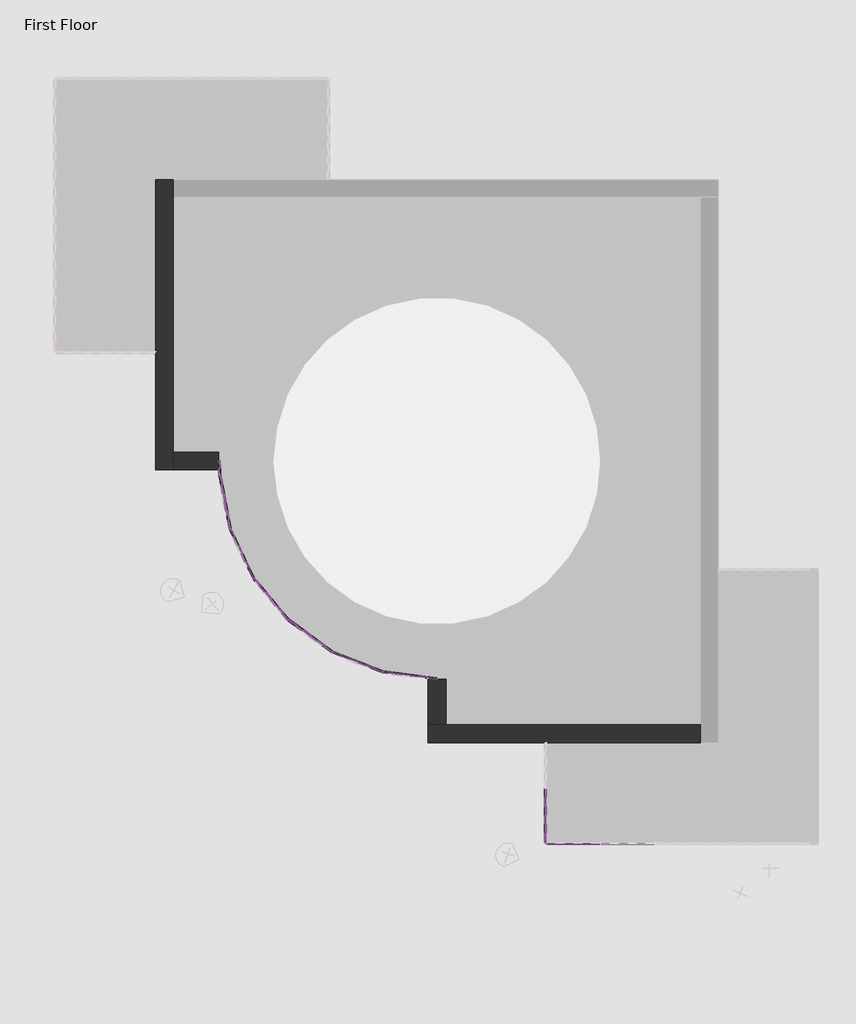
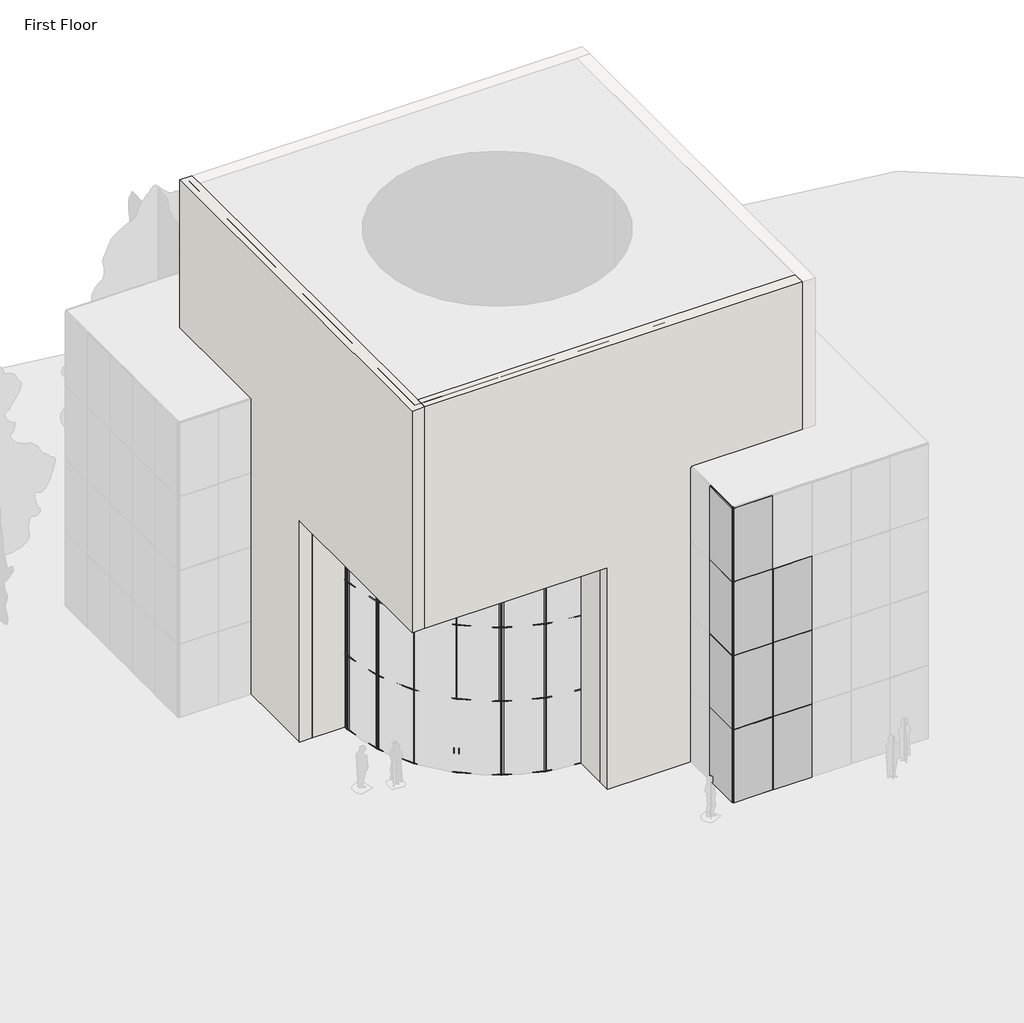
# One storey, part 1 of 5: 55 members, 30 plates, 4 walls, 2 doors.
"""IFC4 building model written with IfcOpenShell, lengths in millimetres."""

from ifc_helpers import new_model, si_unit, origin, origin_with_axes, place, context, project, spatial, polyline, outline, extrude, faceted_brep, transform, mapped, element, save
from components import curtain_wall_sgl_glass_curtain_wall_sgl_glass_fca7f741, curtain_wall_sgl_glass_curtain_wall_sgl_glass_da5bb70a, member_cbdb9076, member_74941792, member_7e523723, member_9fd3d903, member_6604d1e0, member_427ea564, member_dc7d8ed0, member_50c0a876, member_f831c101, member_4ce38149, member_fef64646, member_b90b2622, member_80103e86, member_985bfe06, member_dfe62b7a, member_7f371842, system_panel_glazed_9b7d687a, system_panel_glazed_9a901b4a, system_panel_glazed_2d5e1d3d, system_panel_glazed_37964ea6, system_panel_glazed_64ac1428, system_panel_glazed_4997d7a8, system_panel_glazed_95735f45, system_panel_glazed_2762a518, system_panel_glazed_280dc3c4, system_panel_glazed_176abec3, system_panel_glazed_46fdc408

model = new_model("IFC4")

# Units and contexts
model_context = context("Model", 3, world=origin())
ifc_project = project(units=[si_unit("LENGTHUNIT", "METRE", prefix="MILLI")], contexts=[model_context])

# Site, building, storey
site = spatial("IfcSite", under=ifc_project)
building = spatial("IfcBuilding", under=site)
storey = spatial("IfcBuildingStorey", under=building, Name="First Floor", Elevation=0.0)

# Doors
placement = place(None, origin())
curtain_wall_sgl_glass_curtain_wall_sgl_glass_shape = curtain_wall_sgl_glass_curtain_wall_sgl_glass_fca7f741(model_context)
element("IfcDoor", 1, ObjectType="Curtain Wall Sgl Glass : Curtain Wall Sgl Glass", at=placement, inside=storey, context=model_context, shape_type="MappedRepresentation", body=[
    mapped(curtain_wall_sgl_glass_curtain_wall_sgl_glass_shape, transform((-6023.0622127, -5581.3120786, 25.4), x_axis=(0.8100029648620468, -0.5864257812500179, 0.0), y_axis=(0.5864257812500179, 0.8100029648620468, 0.0), z_axis=(0.0, 0.0, 1.0))),
])
curtain_wall_sgl_glass_curtain_wall_sgl_glass_2_shape = curtain_wall_sgl_glass_curtain_wall_sgl_glass_da5bb70a(model_context)
element("IfcDoor", 2, ObjectType="Curtain Wall Sgl Glass : Curtain Wall Sgl Glass", at=placement, inside=storey, context=model_context, shape_type="MappedRepresentation", body=[
    mapped(curtain_wall_sgl_glass_curtain_wall_sgl_glass_2_shape, transform((-7118.1779734, -4557.0751782, 25.4), x_axis=(-0.6392337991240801, 0.7690124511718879, 0.0), y_axis=(-0.7690124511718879, -0.6392337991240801, 0.0), z_axis=(0.0, 0.0, 1.0))),
])

# Members
member_shape = member_cbdb9076(model_context)
element("IfcMember", 3, ObjectType="Rectangular Mullion : 1\" Square", at=placement, inside=storey, context=model_context, shape_type="MappedRepresentation", body=[
    mapped(member_shape, transform((576.8943843, -11350.8110776, 3048.0), x_axis=(0.0, -1.0, 0.0), y_axis=(-1.0, 0.0, 0.0), z_axis=(0.0, 0.0, -1.0))),
])
element("IfcMember", 4, ObjectType="Rectangular Mullion : 1\" Square", at=placement, inside=storey, context=model_context, shape_type="MappedRepresentation", body=[
    mapped(member_shape, transform((576.8943843, -11350.8110776, 6096.0), x_axis=(0.0, -1.0, 0.0), y_axis=(-1.0, 0.0, 0.0), z_axis=(0.0, 0.0, -1.0))),
])
element("IfcMember", 5, ObjectType="Rectangular Mullion : 1\" Square", at=placement, inside=storey, context=model_context, shape_type="MappedRepresentation", body=[
    mapped(member_shape, transform((-8553.4843812, -1093.2753523, 3048.0), x_axis=(-0.06681254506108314, 0.9977655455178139, 0.0), y_axis=(0.9977655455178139, 0.06681254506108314, 0.0), z_axis=(0.0, 0.0, -1.0))),
])
element("IfcMember", 6, ObjectType="Rectangular Mullion : 1\" Square", at=placement, inside=storey, context=model_context, shape_type="MappedRepresentation", body=[
    mapped(member_shape, transform((-8262.3863448, -2589.2158368, 3048.0), x_axis=(-0.3122096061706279, 0.9500132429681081, 0.0), y_axis=(0.9500132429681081, 0.3122096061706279, 0.0), z_axis=(0.0, 0.0, -1.0))),
])
element("IfcMember", 7, ObjectType="Rectangular Mullion : 1\" Square", at=placement, inside=storey, context=model_context, shape_type="MappedRepresentation", body=[
    mapped(member_shape, transform((-7609.3332629, -3966.2044614, 3048.0), x_axis=(-0.5380935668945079, 0.8428851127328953, 0.0), y_axis=(0.8428851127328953, 0.5380935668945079, 0.0), z_axis=(0.0, 0.0, -1.0))),
])
element("IfcMember", 8, ObjectType="Rectangular Mullion : 1\" Square", at=placement, inside=storey, context=model_context, shape_type="MappedRepresentation", body=[
    mapped(member_shape, transform((-5400.6964346, -6031.8923276, 3048.0), x_axis=(-0.876953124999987, 0.4805759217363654, 0.0), y_axis=(0.4805759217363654, 0.876953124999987, 0.0), z_axis=(0.0, 0.0, -1.0))),
])
element("IfcMember", 9, ObjectType="Rectangular Mullion : 1\" Square", at=placement, inside=storey, context=model_context, shape_type="MappedRepresentation", body=[
    mapped(member_shape, transform((-3983.15249, -6591.4860776, 3048.0), x_axis=(-0.9687499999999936, 0.2480391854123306, 0.0), y_axis=(0.2480391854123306, 0.9687499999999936, 0.0), z_axis=(0.0, 0.0, -1.0))),
])
element("IfcMember", 10, ObjectType="Rectangular Mullion : 1\" Square", at=placement, inside=storey, context=model_context, shape_type="MappedRepresentation", body=[
    mapped(member_shape, transform((576.8943843, -11350.8110776, 9144.0), x_axis=(0.0, -1.0, 0.0), y_axis=(-1.0, 0.0, 0.0), z_axis=(0.0, 0.0, -1.0))),
])
element("IfcMember", 11, ObjectType="Rectangular Mullion : 1\" Square", at=placement, inside=storey, context=model_context, shape_type="MappedRepresentation", body=[
    mapped(member_shape, transform((576.8943843, -11350.8110776, 0.0), x_axis=(0.0, -1.0, 0.0), y_axis=(-1.0, 0.0, 0.0), z_axis=(0.0, 0.0, -1.0))),
])
element("IfcMember", 12, ObjectType="Rectangular Mullion : 1\" Square", at=placement, inside=storey, context=model_context, shape_type="MappedRepresentation", body=[
    mapped(member_shape, transform((-8553.4843812, -1093.2753523, 0.0), x_axis=(-0.06681254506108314, 0.9977655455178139, 0.0), y_axis=(0.9977655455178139, 0.06681254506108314, 0.0), z_axis=(0.0, 0.0, -1.0))),
])
element("IfcMember", 13, ObjectType="Rectangular Mullion : 1\" Square", at=placement, inside=storey, context=model_context, shape_type="MappedRepresentation", body=[
    mapped(member_shape, transform((-8262.3863448, -2589.2158368, 0.0), x_axis=(-0.3122096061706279, 0.9500132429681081, 0.0), y_axis=(0.9500132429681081, 0.3122096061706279, 0.0), z_axis=(0.0, 0.0, -1.0))),
])
element("IfcMember", 14, ObjectType="Rectangular Mullion : 1\" Square", at=placement, inside=storey, context=model_context, shape_type="MappedRepresentation", body=[
    mapped(member_shape, transform((-7609.3332629, -3966.2044614, 0.0), x_axis=(-0.5380935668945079, 0.8428851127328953, 0.0), y_axis=(0.8428851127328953, 0.5380935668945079, 0.0), z_axis=(0.0, 0.0, -1.0))),
])
element("IfcMember", 15, ObjectType="Rectangular Mullion : 1\" Square", at=placement, inside=storey, context=model_context, shape_type="MappedRepresentation", body=[
    mapped(member_shape, transform((-5400.6964346, -6031.8923276, 0.0), x_axis=(-0.876953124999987, 0.4805759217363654, 0.0), y_axis=(0.4805759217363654, 0.876953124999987, 0.0), z_axis=(0.0, 0.0, -1.0))),
])
element("IfcMember", 16, ObjectType="Rectangular Mullion : 1\" Square", at=placement, inside=storey, context=model_context, shape_type="MappedRepresentation", body=[
    mapped(member_shape, transform((-3983.15249, -6591.4860776, 0.0), x_axis=(-0.9687499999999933, 0.24803918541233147, 0.0), y_axis=(0.24803918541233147, 0.9687499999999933, 0.0), z_axis=(0.0, 0.0, -1.0))),
])
member_2_shape = member_74941792(model_context)
element("IfcMember", 17, ObjectType="Rectangular Mullion : 1\" Square", at=placement, inside=storey, context=model_context, shape_type="MappedRepresentation", body=[
    mapped(member_2_shape, transform((602.2943843, -11353.9860776, 0.0), x_axis=(0.0, 0.0, -1.0), y_axis=(0.0, -1.0, 0.0), z_axis=(-1.0, 0.0, 0.0))),
])
member_3_shape = member_7e523723(model_context)
element("IfcMember", 18, ObjectType="Rectangular Mullion : 1\" Square", at=placement, inside=storey, context=model_context, shape_type="MappedRepresentation", body=[
    mapped(member_3_shape, transform((576.8943843, -11353.9860776, 12192.0), x_axis=(-1.0, 0.0, 0.0), y_axis=(0.0, -1.0, 0.0), z_axis=(0.0, 0.0, 1.0))),
])
element("IfcMember", 19, ObjectType="Rectangular Mullion : 1\" Square", at=placement, inside=storey, context=model_context, shape_type="MappedRepresentation", body=[
    mapped(member_3_shape, transform((576.8943843, -11353.9860776, 3048.0), x_axis=(-1.0, 0.0, 0.0), y_axis=(0.0, -1.0, 0.0), z_axis=(0.0, 0.0, 1.0))),
])
element("IfcMember", 20, ObjectType="Rectangular Mullion : 1\" Square", at=placement, inside=storey, context=model_context, shape_type="MappedRepresentation", body=[
    mapped(member_3_shape, transform((576.8943843, -11353.9860776, 6096.0), x_axis=(-1.0, 0.0, 0.0), y_axis=(0.0, -1.0, 0.0), z_axis=(0.0, 0.0, 1.0))),
])
element("IfcMember", 21, ObjectType="Rectangular Mullion : 1\" Square", at=placement, inside=storey, context=model_context, shape_type="MappedRepresentation", body=[
    mapped(member_3_shape, transform((576.8943843, -11353.9860776, 9144.0), x_axis=(-1.0, 0.0, 0.0), y_axis=(0.0, -1.0, 0.0), z_axis=(0.0, 0.0, 1.0))),
])
member_4_shape = member_9fd3d903(model_context)
element("IfcMember", 22, ObjectType="Rectangular Mullion : 1\" Square", at=placement, inside=storey, context=model_context, shape_type="MappedRepresentation", body=[
    mapped(member_4_shape, transform((576.8943843, -11338.1110776, 3048.0), x_axis=(0.0, 0.0, 1.0), y_axis=(-1.0, 0.0, 0.0), z_axis=(0.0, -1.0, 0.0))),
])
element("IfcMember", 23, ObjectType="Rectangular Mullion : 1\" Square", at=placement, inside=storey, context=model_context, shape_type="MappedRepresentation", body=[
    mapped(member_4_shape, transform((576.8943843, -11338.1110776, 6096.0), x_axis=(0.0, 0.0, 1.0), y_axis=(-1.0, 0.0, 0.0), z_axis=(0.0, -1.0, 0.0))),
])
element("IfcMember", 24, ObjectType="Rectangular Mullion : 1\" Square", at=placement, inside=storey, context=model_context, shape_type="MappedRepresentation", body=[
    mapped(member_4_shape, transform((576.8943843, -11338.1110776, 9144.0), x_axis=(0.0, 0.0, 1.0), y_axis=(-1.0, 0.0, 0.0), z_axis=(0.0, -1.0, 0.0))),
])
member_5_shape = member_6604d1e0(model_context)
element("IfcMember", 25, ObjectType="Rectangular Mullion : 1\" Square", at=placement, inside=storey, context=model_context, shape_type="MappedRepresentation", body=[
    mapped(member_5_shape, transform((576.8943843, -11338.1110776, 12192.0), x_axis=(0.0, 0.0, 1.0), y_axis=(-1.0, 0.0, 0.0), z_axis=(0.0, -1.0, 0.0))),
])
element("IfcMember", 26, ObjectType="Rectangular Mullion : 1\" Square", at=placement, inside=storey, context=model_context, shape_type="MappedRepresentation", body=[
    mapped(member_3_shape, transform((576.8943843, -11353.9860776, 3048.0), x_axis=(0.0, -1.0, 0.0), y_axis=(-1.0, 0.0, 0.0), z_axis=(0.0, 0.0, -1.0))),
])
element("IfcMember", 27, ObjectType="Rectangular Mullion : 1\" Square", at=placement, inside=storey, context=model_context, shape_type="MappedRepresentation", body=[
    mapped(member_3_shape, transform((576.8943843, -11353.9860776, 6096.0), x_axis=(0.0, -1.0, 0.0), y_axis=(-1.0, 0.0, 0.0), z_axis=(0.0, 0.0, -1.0))),
])
element("IfcMember", 28, ObjectType="Rectangular Mullion : 1\" Square", at=placement, inside=storey, context=model_context, shape_type="MappedRepresentation", body=[
    mapped(member_3_shape, transform((576.8943843, -11353.9860776, 9144.0), x_axis=(0.0, -1.0, 0.0), y_axis=(-1.0, 0.0, 0.0), z_axis=(0.0, 0.0, -1.0))),
])
element("IfcMember", 29, ObjectType="Rectangular Mullion : 1\" Square", at=placement, inside=storey, context=model_context, shape_type="MappedRepresentation", body=[
    mapped(member_3_shape, transform((576.8943843, -11353.9860776, 0.0), x_axis=(0.0, -1.0, 0.0), y_axis=(-1.0, 0.0, 0.0), z_axis=(0.0, 0.0, -1.0))),
])
member_6_shape = member_427ea564(model_context)
element("IfcMember", 30, ObjectType="Rectangular Mullion : 1\" Square", at=placement, inside=storey, context=model_context, shape_type="MappedRepresentation", body=[
    mapped(member_6_shape, transform((-7614.7753719, -3954.7295562, 0.0), x_axis=(0.0, 0.0, -1.0), y_axis=(0.903535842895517, 0.42851252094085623, 0.0), z_axis=(0.42851252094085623, -0.903535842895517, 0.0))),
])
element("IfcMember", 31, ObjectType="Rectangular Mullion : 1\" Square", at=placement, inside=storey, context=model_context, shape_type="MappedRepresentation", body=[
    mapped(member_6_shape, transform((-3994.9653562, -6586.8227963, 0.0), x_axis=(0.0, 0.0, -1.0), y_axis=(0.36718750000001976, 0.9301469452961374, 0.0), z_axis=(0.9301469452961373, -0.3671875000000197, 0.0))),
])
element("IfcMember", 32, ObjectType="Rectangular Mullion : 1\" Square", at=placement, inside=storey, context=model_context, shape_type="MappedRepresentation", body=[
    mapped(member_6_shape, transform((-8264.8121618, -2576.7496661, 0.0), x_axis=(0.0, 0.0, -1.0), y_axis=(0.9815882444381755, 0.1910092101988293, 0.0), z_axis=(0.1910092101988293, -0.9815882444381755, 0.0))),
])
member_7_shape = member_dc7d8ed0(model_context)
element("IfcMember", 33, ObjectType="Rectangular Mullion : 1\" Square", at=placement, inside=storey, context=model_context, shape_type="MappedRepresentation", body=[
    mapped(member_7_shape, transform((-6635.1409531, -5138.1794369, 0.0), x_axis=(0.0, 0.0, -1.0), y_axis=(0.7690124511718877, 0.6392337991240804, 0.0), z_axis=(0.6392337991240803, -0.7690124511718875, 0.0))),
])
member_8_shape = member_50c0a876(model_context)
element("IfcMember", 34, ObjectType="Rectangular Mullion : 1\" Square", at=placement, inside=storey, context=model_context, shape_type="MappedRepresentation", body=[
    mapped(member_8_shape, transform((-5410.9834723, -6024.4447202, 0.0), x_axis=(0.0, 0.0, -1.0), y_axis=(0.5864257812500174, 0.8100029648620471, 0.0), z_axis=(0.8100029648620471, -0.5864257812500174, 0.0))),
])
member_9_shape = member_f831c101(model_context)
element("IfcMember", 35, ObjectType="Rectangular Mullion : 1\" Square", at=placement, inside=storey, context=model_context, shape_type="MappedRepresentation", body=[
    mapped(member_9_shape, transform((-2471.1056157, -6781.9860776, 0.0), x_axis=(0.0, 0.0, -1.0), y_axis=(0.12500000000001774, 0.9921567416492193, 0.0), z_axis=(0.9921567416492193, -0.12500000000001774, 0.0))),
])
member_10_shape = member_4ce38149(model_context)
element("IfcMember", 36, ObjectType="Rectangular Mullion : 1\" Square", at=placement, inside=storey, context=model_context, shape_type="MappedRepresentation", body=[
    mapped(member_10_shape, transform((-8553.908878, -1080.5824486, 0.0), x_axis=(0.0, 0.0, -1.0), y_axis=(0.9994412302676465, 0.03342494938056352, 0.0), z_axis=(0.033424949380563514, -0.9994412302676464, 0.0))),
])
member_11_shape = member_fef64646(model_context)
element("IfcMember", 37, ObjectType="Rectangular Mullion : 1\" Square", at=placement, inside=storey, context=model_context, shape_type="MappedRepresentation", body=[
    mapped(member_11_shape, transform((-3970.5520994, -6593.0735776, 3048.0), x_axis=(0.0, 0.0, 1.0), y_axis=(0.12500000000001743, 0.9921567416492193, 0.0), z_axis=(-0.9921567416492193, 0.12500000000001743, 0.0))),
])
element("IfcMember", 38, ObjectType="Rectangular Mullion : 1\" Square", at=placement, inside=storey, context=model_context, shape_type="MappedRepresentation", body=[
    mapped(member_11_shape, transform((-3970.5520994, -6593.0735776, 6096.0), x_axis=(0.0, 0.0, 1.0), y_axis=(0.12500000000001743, 0.9921567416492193, 0.0), z_axis=(-0.9921567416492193, 0.12500000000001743, 0.0))),
])
member_12_shape = member_b90b2622(model_context)
element("IfcMember", 39, ObjectType="Rectangular Mullion : 1\" Square", at=placement, inside=storey, context=model_context, shape_type="MappedRepresentation", body=[
    mapped(member_12_shape, transform((-5388.8835684, -6036.5556088, 3048.0), x_axis=(0.0, 0.0, 1.0), y_axis=(0.36718750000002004, 0.9301469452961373, 0.0), z_axis=(-0.9301469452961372, 0.36718750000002, 0.0))),
])
element("IfcMember", 40, ObjectType="Rectangular Mullion : 1\" Square", at=placement, inside=storey, context=model_context, shape_type="MappedRepresentation", body=[
    mapped(member_12_shape, transform((-8256.9442358, -2600.690742, 3048.0), x_axis=(0.0, 0.0, 1.0), y_axis=(0.9035358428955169, 0.42851252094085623, 0.0), z_axis=(-0.42851252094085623, 0.9035358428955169, 0.0))),
])
element("IfcMember", 41, ObjectType="Rectangular Mullion : 1\" Square", at=placement, inside=storey, context=model_context, shape_type="MappedRepresentation", body=[
    mapped(member_12_shape, transform((-8551.0585642, -1105.741523, 3048.0), x_axis=(0.0, 0.0, 1.0), y_axis=(0.9815882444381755, 0.1910092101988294, 0.0), z_axis=(-0.19100921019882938, 0.9815882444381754, 0.0))),
])
element("IfcMember", 42, ObjectType="Rectangular Mullion : 1\" Square", at=placement, inside=storey, context=model_context, shape_type="MappedRepresentation", body=[
    mapped(member_12_shape, transform((-8256.9442358, -2600.690742, 6096.0), x_axis=(0.0, 0.0, 1.0), y_axis=(0.9035358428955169, 0.42851252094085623, 0.0), z_axis=(-0.42851252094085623, 0.9035358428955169, 0.0))),
])
element("IfcMember", 43, ObjectType="Rectangular Mullion : 1\" Square", at=placement, inside=storey, context=model_context, shape_type="MappedRepresentation", body=[
    mapped(member_12_shape, transform((-8551.0585642, -1105.741523, 6096.0), x_axis=(0.0, 0.0, 1.0), y_axis=(0.9815882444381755, 0.19100921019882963, 0.0), z_axis=(-0.1910092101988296, 0.9815882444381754, 0.0))),
])
element("IfcMember", 44, ObjectType="Rectangular Mullion : 1\" Square", at=placement, inside=storey, context=model_context, shape_type="MappedRepresentation", body=[
    mapped(member_12_shape, transform((-5388.8835684, -6036.5556088, 6096.0), x_axis=(0.0, 0.0, 1.0), y_axis=(0.36718750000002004, 0.9301469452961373, 0.0), z_axis=(-0.9301469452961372, 0.36718750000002, 0.0))),
])
member_13_shape = member_80103e86(model_context)
element("IfcMember", 45, ObjectType="Rectangular Mullion : 1\" Square", at=placement, inside=storey, context=model_context, shape_type="MappedRepresentation", body=[
    mapped(member_13_shape, transform((-8567.1056157, -685.9860776, 3048.0), x_axis=(0.0, 0.0, 1.0), y_axis=(0.9994412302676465, 0.03342494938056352, 0.0), z_axis=(-0.033424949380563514, 0.9994412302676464, 0.0))),
])
element("IfcMember", 46, ObjectType="Rectangular Mullion : 1\" Square", at=placement, inside=storey, context=model_context, shape_type="MappedRepresentation", body=[
    mapped(member_13_shape, transform((-8567.1056157, -685.9860776, 6096.0), x_axis=(0.0, 0.0, 1.0), y_axis=(0.9994412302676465, 0.0334249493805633, 0.0), z_axis=(-0.03342494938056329, 0.9994412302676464, 0.0))),
])
element("IfcMember", 47, ObjectType="Rectangular Mullion : 1\" Square", at=placement, inside=storey, context=model_context, shape_type="MappedRepresentation", body=[
    mapped(member_shape, transform((-8553.4843812, -1093.2753523, 6096.0), x_axis=(-0.0668125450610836, 0.9977655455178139, 0.0), y_axis=(0.9977655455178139, 0.0668125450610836, 0.0), z_axis=(0.0, 0.0, -1.0))),
])
element("IfcMember", 48, ObjectType="Rectangular Mullion : 1\" Square", at=placement, inside=storey, context=model_context, shape_type="MappedRepresentation", body=[
    mapped(member_shape, transform((-8262.3863448, -2589.2158368, 6096.0), x_axis=(-0.3122096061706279, 0.9500132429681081, 0.0), y_axis=(0.9500132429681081, 0.3122096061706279, 0.0), z_axis=(0.0, 0.0, -1.0))),
])
element("IfcMember", 49, ObjectType="Rectangular Mullion : 1\" Square", at=placement, inside=storey, context=model_context, shape_type="MappedRepresentation", body=[
    mapped(member_shape, transform((-7609.3332629, -3966.2044614, 6096.0), x_axis=(-0.5380935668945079, 0.8428851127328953, 0.0), y_axis=(0.8428851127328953, 0.5380935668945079, 0.0), z_axis=(0.0, 0.0, -1.0))),
])
element("IfcMember", 50, ObjectType="Rectangular Mullion : 1\" Square", at=placement, inside=storey, context=model_context, shape_type="MappedRepresentation", body=[
    mapped(member_shape, transform((-5400.6964346, -6031.8923276, 6096.0), x_axis=(-0.8769531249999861, 0.48057592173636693, 0.0), y_axis=(0.48057592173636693, 0.8769531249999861, 0.0), z_axis=(0.0, 0.0, -1.0))),
])
element("IfcMember", 51, ObjectType="Rectangular Mullion : 1\" Square", at=placement, inside=storey, context=model_context, shape_type="MappedRepresentation", body=[
    mapped(member_shape, transform((-3983.15249, -6591.4860776, 6096.0), x_axis=(-0.9687499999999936, 0.2480391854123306, 0.0), y_axis=(0.2480391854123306, 0.9687499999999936, 0.0), z_axis=(0.0, 0.0, -1.0))),
])
element("IfcMember", 52, ObjectType="Rectangular Mullion : 1\" Square", at=placement, inside=storey, context=model_context, shape_type="MappedRepresentation", body=[
    mapped(member_shape, transform((-6635.1409531, -5138.1794369, 6096.0), x_axis=(-0.7303466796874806, 0.6830766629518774, 0.0), y_axis=(0.6830766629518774, 0.7303466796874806, 0.0), z_axis=(0.0, 0.0, -1.0))),
])
element("IfcMember", 53, ObjectType="Rectangular Mullion : 1\" Square", at=placement, inside=storey, context=model_context, shape_type="MappedRepresentation", body=[
    mapped(member_12_shape, transform((-6624.8539154, -5145.6270444, 6096.0), x_axis=(0.0, 0.0, 1.0), y_axis=(0.5864257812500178, 0.8100029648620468, 0.0), z_axis=(-0.8100029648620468, 0.5864257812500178, 0.0))),
])
element("IfcMember", 54, ObjectType="Rectangular Mullion : 1\" Square", at=placement, inside=storey, context=model_context, shape_type="MappedRepresentation", body=[
    mapped(member_12_shape, transform((-7601.2149937, -3975.9709195, 6096.0), x_axis=(0.0, 0.0, 1.0), y_axis=(0.7690124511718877, 0.6392337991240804, 0.0), z_axis=(-0.6392337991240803, 0.7690124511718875, 0.0))),
])
member_14_shape = member_985bfe06(model_context)
element("IfcMember", 55, ObjectType="Rectangular Mullion : 1\" Square", at=placement, inside=storey, context=model_context, shape_type="MappedRepresentation", body=[
    mapped(member_14_shape, transform((-6635.1409531, -5138.1794369, 3035.3), x_axis=(-0.7303466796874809, 0.6830766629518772, 0.0), y_axis=(0.6830766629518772, 0.7303466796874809, 0.0), z_axis=(0.0, 0.0, -1.0))),
])
member_15_shape = member_dfe62b7a(model_context)
element("IfcMember", 56, ObjectType="Rectangular Mullion : 1\" Square", at=placement, inside=storey, context=model_context, shape_type="MappedRepresentation", body=[
    mapped(member_15_shape, transform((-6624.8539154, -5145.6270444, 3048.0), x_axis=(0.0, 0.0, 1.0), y_axis=(0.586425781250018, 0.8100029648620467, 0.0), z_axis=(-0.8100029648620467, 0.586425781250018, 0.0))),
])
member_16_shape = member_7f371842(model_context)
element("IfcMember", 57, ObjectType="Rectangular Mullion : 1\" Square", at=placement, inside=storey, context=model_context, shape_type="MappedRepresentation", body=[
    mapped(member_16_shape, transform((-7601.2149937, -3975.9709195, 3048.0), x_axis=(0.0, 0.0, 1.0), y_axis=(0.7690124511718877, 0.6392337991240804, 0.0), z_axis=(-0.6392337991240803, 0.7690124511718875, 0.0))),
])

# Plates
system_panel_glazed_shape = system_panel_glazed_9b7d687a(model_context)
element("IfcPlate", 58, ObjectType="System Panel : Glazed", at=placement, inside=storey, context=model_context, shape_type="MappedRepresentation", body=[
    mapped(system_panel_glazed_shape, transform((1345.2443843, -11353.9860776, 25.4), x_axis=(1.0, 0.0, 0.0), y_axis=(0.0, 1.0, 0.0), z_axis=(0.0, 0.0, 1.0))),
])
element("IfcPlate", 59, ObjectType="System Panel : Glazed", at=placement, inside=storey, context=model_context, shape_type="MappedRepresentation", body=[
    mapped(system_panel_glazed_shape, transform((1345.2443843, -11353.9860776, 9156.7), x_axis=(1.0, 0.0, 0.0), y_axis=(0.0, 1.0, 0.0), z_axis=(0.0, 0.0, 1.0))),
])
system_panel_glazed_2_shape = system_panel_glazed_9a901b4a(model_context)
element("IfcPlate", 60, ObjectType="System Panel : Glazed", at=placement, inside=storey, context=model_context, shape_type="MappedRepresentation", body=[
    mapped(system_panel_glazed_2_shape, transform((1345.2443843, -11353.9860776, 3060.7), x_axis=(1.0, 0.0, 0.0), y_axis=(0.0, 1.0, 0.0), z_axis=(0.0, 0.0, 1.0))),
])
element("IfcPlate", 61, ObjectType="System Panel : Glazed", at=placement, inside=storey, context=model_context, shape_type="MappedRepresentation", body=[
    mapped(system_panel_glazed_2_shape, transform((1345.2443843, -11353.9860776, 6108.7), x_axis=(1.0, 0.0, 0.0), y_axis=(0.0, 1.0, 0.0), z_axis=(0.0, 0.0, 1.0))),
])
system_panel_glazed_3_shape = system_panel_glazed_2d5e1d3d(model_context)
element("IfcPlate", 62, ObjectType="System Panel : Glazed", at=placement, inside=storey, context=model_context, shape_type="MappedRepresentation", body=[
    mapped(system_panel_glazed_3_shape, transform((2862.8943843, -11353.9860776, 25.4), x_axis=(1.0, 0.0, 0.0), y_axis=(0.0, 1.0, 0.0), z_axis=(0.0, 0.0, 1.0))),
])
element("IfcPlate", 63, ObjectType="System Panel : Glazed", at=placement, inside=storey, context=model_context, shape_type="MappedRepresentation", body=[
    mapped(system_panel_glazed_3_shape, transform((576.8943843, -10588.8110776, 25.4), x_axis=(0.0, -1.0, 0.0), y_axis=(1.0, 0.0, 0.0), z_axis=(0.0, 0.0, 1.0))),
])
element("IfcPlate", 64, ObjectType="System Panel : Glazed", at=placement, inside=storey, context=model_context, shape_type="MappedRepresentation", body=[
    mapped(system_panel_glazed_3_shape, transform((576.8943843, -10588.8110776, 9156.7), x_axis=(0.0, -1.0, 0.0), y_axis=(1.0, 0.0, 0.0), z_axis=(0.0, 0.0, 1.0))),
])
element("IfcPlate", 65, ObjectType="System Panel : Glazed", at=placement, inside=storey, context=model_context, shape_type="MappedRepresentation", body=[
    mapped(system_panel_glazed_3_shape, transform((-4691.9244623, -6311.6892026, 25.4), x_axis=(-0.9301469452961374, 0.36718750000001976, 0.0), y_axis=(-0.36718750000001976, -0.9301469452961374, 0.0), z_axis=(0.0, 0.0, 1.0))),
])
element("IfcPlate", 66, ObjectType="System Panel : Glazed", at=placement, inside=storey, context=model_context, shape_type="MappedRepresentation", body=[
    mapped(system_panel_glazed_3_shape, transform((-7935.8598039, -3277.7101491, 25.4), x_axis=(-0.42851252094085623, 0.903535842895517, 0.0), y_axis=(-0.903535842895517, -0.42851252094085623, 0.0), z_axis=(0.0, 0.0, 1.0))),
])
element("IfcPlate", 67, ObjectType="System Panel : Glazed", at=placement, inside=storey, context=model_context, shape_type="MappedRepresentation", body=[
    mapped(system_panel_glazed_3_shape, transform((-8407.935363, -1841.2455945, 25.4), x_axis=(-0.19100921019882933, 0.9815882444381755, 0.0), y_axis=(-0.9815882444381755, -0.19100921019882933, 0.0), z_axis=(0.0, 0.0, 1.0))),
])
system_panel_glazed_4_shape = system_panel_glazed_37964ea6(model_context)
element("IfcPlate", 68, ObjectType="System Panel : Glazed", at=placement, inside=storey, context=model_context, shape_type="MappedRepresentation", body=[
    mapped(system_panel_glazed_4_shape, transform((2862.8943843, -11353.9860776, 3060.7), x_axis=(1.0, 0.0, 0.0), y_axis=(0.0, 1.0, 0.0), z_axis=(0.0, 0.0, 1.0))),
])
element("IfcPlate", 69, ObjectType="System Panel : Glazed", at=placement, inside=storey, context=model_context, shape_type="MappedRepresentation", body=[
    mapped(system_panel_glazed_4_shape, transform((2862.8943843, -11353.9860776, 6108.7), x_axis=(1.0, 0.0, 0.0), y_axis=(0.0, 1.0, 0.0), z_axis=(0.0, 0.0, 1.0))),
])
element("IfcPlate", 70, ObjectType="System Panel : Glazed", at=placement, inside=storey, context=model_context, shape_type="MappedRepresentation", body=[
    mapped(system_panel_glazed_4_shape, transform((576.8943843, -10588.8110776, 3060.7), x_axis=(0.0, -1.0, 0.0), y_axis=(1.0, 0.0, 0.0), z_axis=(0.0, 0.0, 1.0))),
])
element("IfcPlate", 71, ObjectType="System Panel : Glazed", at=placement, inside=storey, context=model_context, shape_type="MappedRepresentation", body=[
    mapped(system_panel_glazed_4_shape, transform((576.8943843, -10588.8110776, 6108.7), x_axis=(0.0, -1.0, 0.0), y_axis=(1.0, 0.0, 0.0), z_axis=(0.0, 0.0, 1.0))),
])
element("IfcPlate", 72, ObjectType="System Panel : Glazed", at=placement, inside=storey, context=model_context, shape_type="MappedRepresentation", body=[
    mapped(system_panel_glazed_4_shape, transform((-4691.9244623, -6311.6892026, 3060.7), x_axis=(-0.9301469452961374, 0.36718750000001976, 0.0), y_axis=(-0.36718750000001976, -0.9301469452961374, 0.0), z_axis=(0.0, 0.0, 1.0))),
])
element("IfcPlate", 73, ObjectType="System Panel : Glazed", at=placement, inside=storey, context=model_context, shape_type="MappedRepresentation", body=[
    mapped(system_panel_glazed_4_shape, transform((-6017.9186938, -5585.0358823, 3060.7), x_axis=(-0.8100029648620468, 0.5864257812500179, 0.0), y_axis=(-0.5864257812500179, -0.8100029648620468, 0.0), z_axis=(0.0, 0.0, 1.0))),
])
element("IfcPlate", 74, ObjectType="System Panel : Glazed", at=placement, inside=storey, context=model_context, shape_type="MappedRepresentation", body=[
    mapped(system_panel_glazed_4_shape, transform((-7122.237108, -4552.1919492, 3060.7), x_axis=(-0.6392337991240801, 0.7690124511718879, 0.0), y_axis=(-0.7690124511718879, -0.6392337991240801, 0.0), z_axis=(0.0, 0.0, 1.0))),
])
element("IfcPlate", 75, ObjectType="System Panel : Glazed", at=placement, inside=storey, context=model_context, shape_type="MappedRepresentation", body=[
    mapped(system_panel_glazed_4_shape, transform((-7935.8598039, -3277.7101491, 3060.7), x_axis=(-0.42851252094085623, 0.903535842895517, 0.0), y_axis=(-0.903535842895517, -0.42851252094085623, 0.0), z_axis=(0.0, 0.0, 1.0))),
])
element("IfcPlate", 76, ObjectType="System Panel : Glazed", at=placement, inside=storey, context=model_context, shape_type="MappedRepresentation", body=[
    mapped(system_panel_glazed_4_shape, transform((-8407.935363, -1841.2455945, 3060.7), x_axis=(-0.19100921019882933, 0.9815882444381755, 0.0), y_axis=(-0.9815882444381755, -0.19100921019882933, 0.0), z_axis=(0.0, 0.0, 1.0))),
])
system_panel_glazed_5_shape = system_panel_glazed_64ac1428(model_context)
element("IfcPlate", 77, ObjectType="System Panel : Glazed", at=placement, inside=storey, context=model_context, shape_type="MappedRepresentation", body=[
    mapped(system_panel_glazed_5_shape, transform((-3220.8288575, -6687.5298276, 25.4), x_axis=(-0.9921567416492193, 0.12500000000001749, 0.0), y_axis=(-0.12500000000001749, -0.9921567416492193, 0.0), z_axis=(0.0, 0.0, 1.0))),
])
system_panel_glazed_6_shape = system_panel_glazed_4997d7a8(model_context)
element("IfcPlate", 78, ObjectType="System Panel : Glazed", at=placement, inside=storey, context=model_context, shape_type="MappedRepresentation", body=[
    mapped(system_panel_glazed_6_shape, transform((-8560.5072469, -883.2842631, 25.4), x_axis=(-0.03342494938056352, 0.9994412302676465, 0.0), y_axis=(-0.9994412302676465, -0.03342494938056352, 0.0), z_axis=(0.0, 0.0, 1.0))),
])
system_panel_glazed_7_shape = system_panel_glazed_95735f45(model_context)
element("IfcPlate", 79, ObjectType="System Panel : Glazed", at=placement, inside=storey, context=model_context, shape_type="MappedRepresentation", body=[
    mapped(system_panel_glazed_7_shape, transform((-3220.8288575, -6687.5298276, 6108.7), x_axis=(-0.9921567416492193, 0.12500000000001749, 0.0), y_axis=(-0.12500000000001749, -0.9921567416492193, 0.0), z_axis=(0.0, 0.0, 1.0))),
])
system_panel_glazed_8_shape = system_panel_glazed_2762a518(model_context)
element("IfcPlate", 80, ObjectType="System Panel : Glazed", at=placement, inside=storey, context=model_context, shape_type="MappedRepresentation", body=[
    mapped(system_panel_glazed_8_shape, transform((-4691.9244623, -6311.6892026, 6108.7), x_axis=(-0.9301469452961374, 0.36718750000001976, 0.0), y_axis=(-0.36718750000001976, -0.9301469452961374, 0.0), z_axis=(0.0, 0.0, 1.0))),
])
element("IfcPlate", 81, ObjectType="System Panel : Glazed", at=placement, inside=storey, context=model_context, shape_type="MappedRepresentation", body=[
    mapped(system_panel_glazed_8_shape, transform((-6017.9186938, -5585.0358823, 6108.7), x_axis=(-0.8100029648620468, 0.5864257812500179, 0.0), y_axis=(-0.5864257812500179, -0.8100029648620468, 0.0), z_axis=(0.0, 0.0, 1.0))),
])
element("IfcPlate", 82, ObjectType="System Panel : Glazed", at=placement, inside=storey, context=model_context, shape_type="MappedRepresentation", body=[
    mapped(system_panel_glazed_8_shape, transform((-7122.237108, -4552.1919492, 6108.7), x_axis=(-0.6392337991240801, 0.7690124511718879, 0.0), y_axis=(-0.7690124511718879, -0.6392337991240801, 0.0), z_axis=(0.0, 0.0, 1.0))),
])
element("IfcPlate", 83, ObjectType="System Panel : Glazed", at=placement, inside=storey, context=model_context, shape_type="MappedRepresentation", body=[
    mapped(system_panel_glazed_8_shape, transform((-7935.8598039, -3277.7101491, 6108.7), x_axis=(-0.42851252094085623, 0.903535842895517, 0.0), y_axis=(-0.903535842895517, -0.42851252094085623, 0.0), z_axis=(0.0, 0.0, 1.0))),
])
element("IfcPlate", 84, ObjectType="System Panel : Glazed", at=placement, inside=storey, context=model_context, shape_type="MappedRepresentation", body=[
    mapped(system_panel_glazed_8_shape, transform((-8407.935363, -1841.2455945, 6108.7), x_axis=(-0.19100921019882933, 0.9815882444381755, 0.0), y_axis=(-0.9815882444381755, -0.19100921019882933, 0.0), z_axis=(0.0, 0.0, 1.0))),
])
system_panel_glazed_9_shape = system_panel_glazed_280dc3c4(model_context)
element("IfcPlate", 85, ObjectType="System Panel : Glazed", at=placement, inside=storey, context=model_context, shape_type="MappedRepresentation", body=[
    mapped(system_panel_glazed_9_shape, transform((-8560.5072469, -883.2842631, 6108.7), x_axis=(-0.03342494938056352, 0.9994412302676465, 0.0), y_axis=(-0.9994412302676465, -0.03342494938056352, 0.0), z_axis=(0.0, 0.0, 1.0))),
])
system_panel_glazed_10_shape = system_panel_glazed_176abec3(model_context)
element("IfcPlate", 86, ObjectType="System Panel : Glazed", at=placement, inside=storey, context=model_context, shape_type="MappedRepresentation", body=[
    mapped(system_panel_glazed_10_shape, transform((-3220.8288575, -6687.5298276, 3060.7), x_axis=(-0.9921567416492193, 0.12500000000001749, 0.0), y_axis=(-0.12500000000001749, -0.9921567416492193, 0.0), z_axis=(0.0, 0.0, 1.0))),
])
system_panel_glazed_11_shape = system_panel_glazed_46fdc408(model_context)
element("IfcPlate", 87, ObjectType="System Panel : Glazed", at=placement, inside=storey, context=model_context, shape_type="MappedRepresentation", body=[
    mapped(system_panel_glazed_11_shape, transform((-8560.5072469, -883.2842631, 3060.7), x_axis=(-0.03342494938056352, 0.9994412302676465, 0.0), y_axis=(-0.9994412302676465, -0.03342494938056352, 0.0), z_axis=(0.0, 0.0, 1.0))),
])

# Walls
element("IfcWall", 88, ObjectType="Exterior - Brick on CMU", at=placement, inside=storey, context=model_context, shape_type="Brep", body=[
    faceted_brep([(-10335.5806157, 7178.4889224, 18288.0), (-10335.5806157, 7178.4889224, 0.0), (-10335.5806157, -930.4610776, 0.0), (-10335.5806157, -930.4610776, 9144.0), (-10335.5806157, -8550.4610776, 9144.0), (-10335.5806157, -8550.4610776, 18288.0), (-9840.2806157, 7178.4889224, 18288.0), (-9840.2806157, 6683.1889224, 18288.0), (-9840.2806157, -8055.1610776, 18288.0), (-9840.2806157, -8550.4610776, 18288.0), (-9840.2806157, -8550.4610776, 9144.0), (-9840.2806157, -8055.1610776, 9144.0), (-9840.2806157, -930.4610776, 9144.0), (-9840.2806157, -930.4610776, 0.0), (-9840.2806157, -435.1610776, 0.0), (-9840.2806157, 6683.1889224, 0.0), (-9840.2806157, 7178.4889224, 0.0)], [[[0, 1, 2, 3, 4, 5]], [[6, 7, 8, 9, 10, 11, 12, 13, 14, 15, 16]], [[2, 1, 16, 15, 14, 13]], [[4, 3, 12, 11, 10]], [[0, 5, 9, 8, 7, 6]], [[1, 0, 6, 16]], [[5, 4, 10, 9]], [[3, 2, 13, 12]]]),
])
element("IfcWall", 89, ObjectType="Exterior - Brick on CMU", at=placement, inside=storey, context=model_context, shape_type="Brep", body=[
    faceted_brep([(-9840.2806157, -8550.4610776, 18288.0), (-9840.2806157, -8550.4610776, 9144.0), (-2715.5806157, -8550.4610776, 9144.0), (-2715.5806157, -8550.4610776, 0.0), (4898.0693843, -8550.4610776, 0.0), (4898.0693843, -8550.4610776, 18288.0), (-9840.2806157, -8055.1610776, 18288.0), (4898.0693843, -8055.1610776, 18288.0), (4898.0693843, -8055.1610776, 0.0), (-2220.2806157, -8055.1610776, 0.0), (-2715.5806157, -8055.1610776, 0.0), (-2715.5806157, -8055.1610776, 9144.0), (-9840.2806157, -8055.1610776, 9144.0)], [[[0, 1, 2, 3, 4, 5]], [[6, 7, 8, 9, 10, 11, 12]], [[2, 1, 12, 11]], [[4, 3, 10, 9, 8]], [[0, 5, 7, 6]], [[1, 0, 6, 12]], [[5, 4, 8, 7]], [[3, 2, 11, 10]]]),
])
element("IfcWall", 90, ObjectType="Exterior - Brick on CMU", at=placement, inside=storey, context=model_context, shape_type="SweptSolid", body=[
    extrude(outline(polyline([(-9840.2806157, -435.1610776), (-8567.1056157, -435.1610776), (-8567.1056157, -930.4610776), (-9840.2806157, -930.4610776), (-9840.2806157, -435.1610776)])), origin_with_axes(), (0.0, 0.0, 1.0), 9144.0),
])
element("IfcWall", 91, ObjectType="Exterior - Brick on CMU", at=placement, inside=storey, context=model_context, shape_type="SweptSolid", body=[
    extrude(outline(polyline([(-2220.2806157, -6781.9860776), (-2220.2806157, -8055.1610776), (-2715.5806157, -8055.1610776), (-2715.5806157, -6781.9860776), (-2220.2806157, -6781.9860776)])), origin_with_axes(), (0.0, 0.0, 1.0), 9144.0),
])

save(model, "model.ifc")
